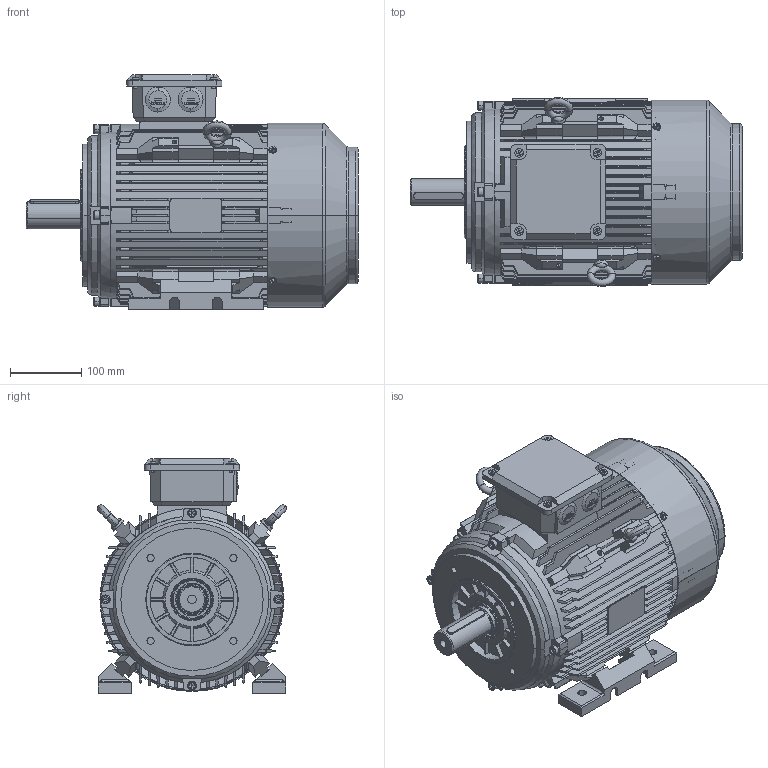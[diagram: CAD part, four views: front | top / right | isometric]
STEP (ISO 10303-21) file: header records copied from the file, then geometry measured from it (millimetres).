
FILE_DESCRIPTION (( 'STEP AP214' ), '1' );
FILE_NAME ('BCT4550.13B234.11.step', '2020-04-23T13:29:30', ( '' ), ( '' ), 'SwSTEP 2.0', 'SolidWorks 2019', '' );
FILE_SCHEMA (( 'AUTOMOTIVE_DESIGN' ));
Length unit declared in the file: millimetre
Products named in the file (1): BCT4550.13B234.11
Bounding box: 467 x 265.93 x 330.04 mm (x, y, z)
Volume: 4477426.8 mm3; surface area: 1652848.8 mm2
Topology: 35 solids, 35 shells, 4236 faces, 11710 edges, 7640 vertices
Faces by surface type: plane 2078, cylinder 1521, cone 355, torus 150, bspline 132
Entity records: 160269 total; most frequent: CARTESIAN_POINT 52418, ORIENTED_EDGE 23316, DIRECTION 21304, EDGE_CURVE 11658, VERTEX_POINT 7644, AXIS2_PLACEMENT_3D 7286, VECTOR 6732, LINE 6732
